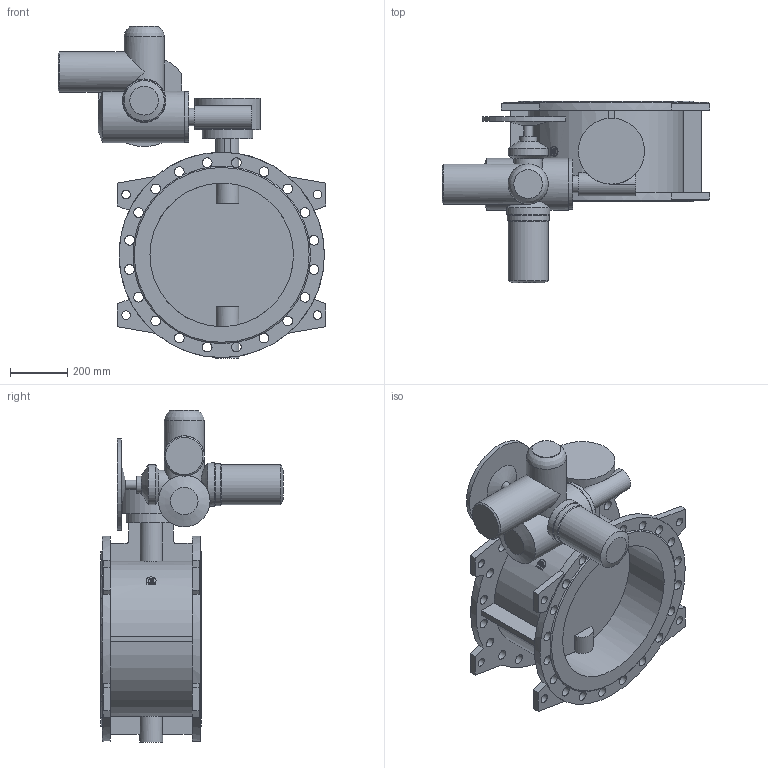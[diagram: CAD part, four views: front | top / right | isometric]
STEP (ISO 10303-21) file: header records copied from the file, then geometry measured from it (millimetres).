
FILE_DESCRIPTION(('STEP AP203'), '1');
FILE_NAME('Çàòâîð 023F.Z DN500 PN16 + ðåäóêòîð + ÌÒ903.À30', '', ('UNSPECIFIED'), ('UNSPECIFIED'), 'ASCON STEP Converter 1.6', 'ASCON Math Kernel', '');
FILE_SCHEMA(('CONFIG_CONTROL_DESIGN'));
Length unit declared in the file: millimetre
Bounding box: 933 x 634 x 1156 mm (x, y, z)
Volume: 60959939.6 mm3; surface area: 3583928.7 mm2
Topology: 1 solids, 1 shells, 224 faces, 676 edges, 446 vertices
Faces by surface type: cylinder 106, plane 106, cone 11, torus 1
Full cylindrical faces by diameter (mm): 14 x8, 18 x8, 30 x8, 32 x1, 34 x40, 60 x2, 80 x2, 100 x1, 140 x4, 147 x1, 151 x1, 175 x2, 180 x1, 230 x1, 500 x2, 715 x2
Entity records: 12627 total; most frequent: CARTESIAN_POINT 4815, DIRECTION 1255, ORIENTED_EDGE 1156, EDGE_CURVE 578, AXIS2_PLACEMENT_3D 532, VERTEX_POINT 445, EDGE_LOOP 407, CIRCLE 308
